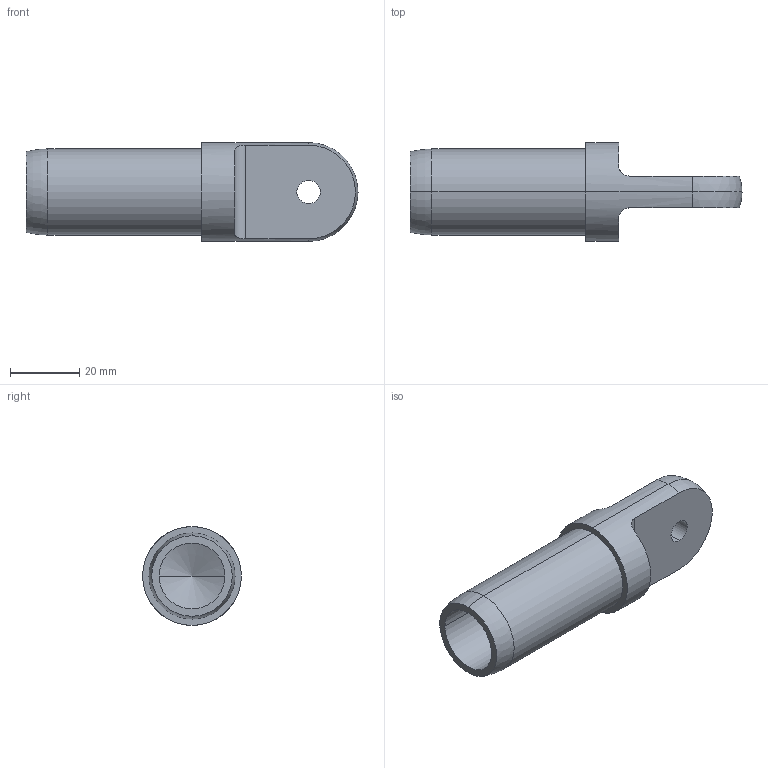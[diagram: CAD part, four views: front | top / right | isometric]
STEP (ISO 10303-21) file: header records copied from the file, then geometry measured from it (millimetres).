
FILE_DESCRIPTION (( 'STEP AP214' ), '1' );
FILE_NAME ('DRP-002-0509-00.STEP', '2013-12-20T16:23:20', ( 'ydmin' ), ( 'Microsoft' ), 'SwSTEP 2.0', 'SolidWorks 2013', '' );
FILE_SCHEMA (( 'AUTOMOTIVE_DESIGN' ));
Length unit declared in the file: inch
Products named in the file (1): DRP-002-0509-00
Bounding box: 95.97 x 28.57 x 28.57 mm (x, y, z)
Volume: 23496.8 mm3; surface area: 11542.8 mm2
Topology: 1 solids, 1 shells, 22 faces, 52 edges, 32 vertices
Faces by surface type: cylinder 10, plane 6, torus 2, cone 2, sphere 2
Entity records: 734 total; most frequent: CARTESIAN_POINT 173, DIRECTION 120, ORIENTED_EDGE 100, AXIS2_PLACEMENT_3D 51, EDGE_CURVE 50, VERTEX_POINT 32, CIRCLE 28, EDGE_LOOP 26
